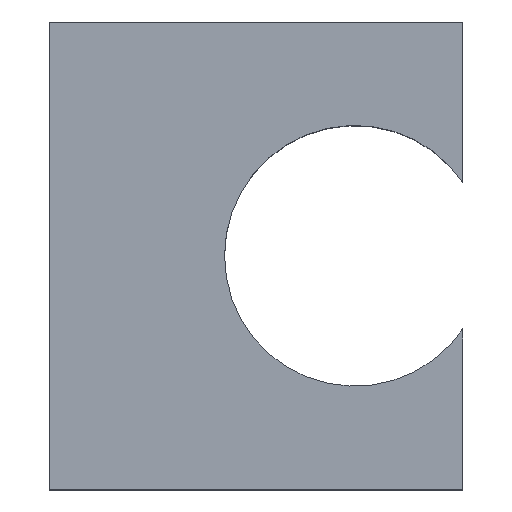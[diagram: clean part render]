
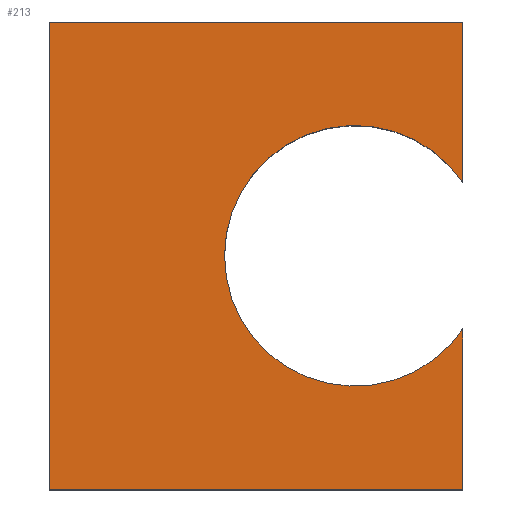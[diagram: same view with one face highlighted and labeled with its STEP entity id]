
A CAD part, top view. The second image highlights one B-rep face of the part: STEP entity #213.
In plain terms, the highlighted planar face has unit normal (0, 0, 1).
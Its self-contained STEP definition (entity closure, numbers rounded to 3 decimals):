
#24 = VERTEX_POINT('',#25);
#25 = CARTESIAN_POINT('',(30.,53.4,-17.2));
#32 = PLANE('',#33);
#33 = AXIS2_PLACEMENT_3D('',#34,#35,#36);
#34 = CARTESIAN_POINT('',(30.,53.4,-20.));
#35 = DIRECTION('',(1.,0.,-0.));
#36 = DIRECTION('',(0.,0.,1.));
#44 = PLANE('',#45);
#45 = AXIS2_PLACEMENT_3D('',#46,#47,#48);
#46 = CARTESIAN_POINT('',(30.,53.4,-20.));
#47 = DIRECTION('',(-0.,1.,0.));
#48 = DIRECTION('',(0.,0.,1.));
#85 = VERTEX_POINT('',#86);
#86 = CARTESIAN_POINT('',(30.,58.6,-17.2));
#100 = PLANE('',#101);
#101 = AXIS2_PLACEMENT_3D('',#102,#103,#104);
#102 = CARTESIAN_POINT('',(30.,58.6,-20.));
#103 = DIRECTION('',(-0.,1.,0.));
#104 = DIRECTION('',(0.,0.,1.));
#112 = EDGE_CURVE('',#24,#85,#113,.T.);
#113 = SURFACE_CURVE('',#114,(#118,#125),.PCURVE_S1.);
#114 = LINE('',#115,#116);
#115 = CARTESIAN_POINT('',(30.,53.4,-17.2));
#116 = VECTOR('',#117,1.);
#117 = DIRECTION('',(-0.,1.,0.));
#118 = PCURVE('',#32,#119);
#119 = DEFINITIONAL_REPRESENTATION('',(#120),#124);
#120 = LINE('',#121,#122);
#121 = CARTESIAN_POINT('',(2.8,0.));
#122 = VECTOR('',#123,1.);
#123 = DIRECTION('',(0.,-1.));
#124 = ( GEOMETRIC_REPRESENTATION_CONTEXT(2) 
PARAMETRIC_REPRESENTATION_CONTEXT() REPRESENTATION_CONTEXT('2D SPACE',''
  ) );
#125 = PCURVE('',#126,#131);
#126 = PLANE('',#127);
#127 = AXIS2_PLACEMENT_3D('',#128,#129,#130);
#128 = CARTESIAN_POINT('',(30.,53.4,-17.2));
#129 = DIRECTION('',(0.,0.,1.));
#130 = DIRECTION('',(1.,0.,-0.));
#131 = DEFINITIONAL_REPRESENTATION('',(#132),#136);
#132 = LINE('',#133,#134);
#133 = CARTESIAN_POINT('',(0.,0.));
#134 = VECTOR('',#135,1.);
#135 = DIRECTION('',(0.,1.));
#136 = ( GEOMETRIC_REPRESENTATION_CONTEXT(2) 
PARAMETRIC_REPRESENTATION_CONTEXT() REPRESENTATION_CONTEXT('2D SPACE',''
  ) );
#165 = EDGE_CURVE('',#24,#166,#168,.T.);
#166 = VERTEX_POINT('',#167);
#167 = CARTESIAN_POINT('',(34.6,53.4,-17.2));
#168 = SURFACE_CURVE('',#169,(#173,#180),.PCURVE_S1.);
#169 = LINE('',#170,#171);
#170 = CARTESIAN_POINT('',(30.,53.4,-17.2));
#171 = VECTOR('',#172,1.);
#172 = DIRECTION('',(1.,0.,-0.));
#173 = PCURVE('',#44,#174);
#174 = DEFINITIONAL_REPRESENTATION('',(#175),#179);
#175 = LINE('',#176,#177);
#176 = CARTESIAN_POINT('',(2.8,0.));
#177 = VECTOR('',#178,1.);
#178 = DIRECTION('',(0.,1.));
#179 = ( GEOMETRIC_REPRESENTATION_CONTEXT(2) 
PARAMETRIC_REPRESENTATION_CONTEXT() REPRESENTATION_CONTEXT('2D SPACE',''
  ) );
#180 = PCURVE('',#126,#181);
#181 = DEFINITIONAL_REPRESENTATION('',(#182),#186);
#182 = LINE('',#183,#184);
#183 = CARTESIAN_POINT('',(0.,0.));
#184 = VECTOR('',#185,1.);
#185 = DIRECTION('',(1.,0.));
#186 = ( GEOMETRIC_REPRESENTATION_CONTEXT(2) 
PARAMETRIC_REPRESENTATION_CONTEXT() REPRESENTATION_CONTEXT('2D SPACE',''
  ) );
#202 = PLANE('',#203);
#203 = AXIS2_PLACEMENT_3D('',#204,#205,#206);
#204 = CARTESIAN_POINT('',(34.6,53.4,-20.));
#205 = DIRECTION('',(1.,0.,-0.));
#206 = DIRECTION('',(0.,0.,1.));
#213 = ADVANCED_FACE('',(#214),#126,.T.);
#214 = FACE_BOUND('',#215,.T.);
#215 = EDGE_LOOP('',(#216,#239,#240,#241,#264,#293));
#216 = ORIENTED_EDGE('',*,*,#217,.F.);
#217 = EDGE_CURVE('',#85,#218,#220,.T.);
#218 = VERTEX_POINT('',#219);
#219 = CARTESIAN_POINT('',(34.6,58.6,-17.2));
#220 = SURFACE_CURVE('',#221,(#225,#232),.PCURVE_S1.);
#221 = LINE('',#222,#223);
#222 = CARTESIAN_POINT('',(30.,58.6,-17.2));
#223 = VECTOR('',#224,1.);
#224 = DIRECTION('',(1.,0.,-0.));
#225 = PCURVE('',#126,#226);
#226 = DEFINITIONAL_REPRESENTATION('',(#227),#231);
#227 = LINE('',#228,#229);
#228 = CARTESIAN_POINT('',(0.,5.2));
#229 = VECTOR('',#230,1.);
#230 = DIRECTION('',(1.,0.));
#231 = ( GEOMETRIC_REPRESENTATION_CONTEXT(2) 
PARAMETRIC_REPRESENTATION_CONTEXT() REPRESENTATION_CONTEXT('2D SPACE',''
  ) );
#232 = PCURVE('',#100,#233);
#233 = DEFINITIONAL_REPRESENTATION('',(#234),#238);
#234 = LINE('',#235,#236);
#235 = CARTESIAN_POINT('',(2.8,0.));
#236 = VECTOR('',#237,1.);
#237 = DIRECTION('',(0.,1.));
#238 = ( GEOMETRIC_REPRESENTATION_CONTEXT(2) 
PARAMETRIC_REPRESENTATION_CONTEXT() REPRESENTATION_CONTEXT('2D SPACE',''
  ) );
#239 = ORIENTED_EDGE('',*,*,#112,.F.);
#240 = ORIENTED_EDGE('',*,*,#165,.T.);
#241 = ORIENTED_EDGE('',*,*,#242,.T.);
#242 = EDGE_CURVE('',#166,#243,#245,.T.);
#243 = VERTEX_POINT('',#244);
#244 = CARTESIAN_POINT('',(34.6,55.186,-17.2));
#245 = SURFACE_CURVE('',#246,(#250,#257),.PCURVE_S1.);
#246 = LINE('',#247,#248);
#247 = CARTESIAN_POINT('',(34.6,53.4,-17.2));
#248 = VECTOR('',#249,1.);
#249 = DIRECTION('',(-0.,1.,0.));
#250 = PCURVE('',#126,#251);
#251 = DEFINITIONAL_REPRESENTATION('',(#252),#256);
#252 = LINE('',#253,#254);
#253 = CARTESIAN_POINT('',(4.6,0.));
#254 = VECTOR('',#255,1.);
#255 = DIRECTION('',(0.,1.));
#256 = ( GEOMETRIC_REPRESENTATION_CONTEXT(2) 
PARAMETRIC_REPRESENTATION_CONTEXT() REPRESENTATION_CONTEXT('2D SPACE',''
  ) );
#257 = PCURVE('',#202,#258);
#258 = DEFINITIONAL_REPRESENTATION('',(#259),#263);
#259 = LINE('',#260,#261);
#260 = CARTESIAN_POINT('',(2.8,0.));
#261 = VECTOR('',#262,1.);
#262 = DIRECTION('',(0.,-1.));
#263 = ( GEOMETRIC_REPRESENTATION_CONTEXT(2) 
PARAMETRIC_REPRESENTATION_CONTEXT() REPRESENTATION_CONTEXT('2D SPACE',''
  ) );
#264 = ORIENTED_EDGE('',*,*,#265,.F.);
#265 = EDGE_CURVE('',#266,#243,#268,.T.);
#266 = VERTEX_POINT('',#267);
#267 = CARTESIAN_POINT('',(34.6,56.814,-17.2));
#268 = SURFACE_CURVE('',#269,(#274,#281),.PCURVE_S1.);
#269 = CIRCLE('',#270,1.45);
#270 = AXIS2_PLACEMENT_3D('',#271,#272,#273);
#271 = CARTESIAN_POINT('',(33.4,56.,-17.2));
#272 = DIRECTION('',(0.,0.,1.));
#273 = DIRECTION('',(1.,0.,-0.));
#274 = PCURVE('',#126,#275);
#275 = DEFINITIONAL_REPRESENTATION('',(#276),#280);
#276 = CIRCLE('',#277,1.45);
#277 = AXIS2_PLACEMENT_2D('',#278,#279);
#278 = CARTESIAN_POINT('',(3.4,2.6));
#279 = DIRECTION('',(1.,0.));
#280 = ( GEOMETRIC_REPRESENTATION_CONTEXT(2) 
PARAMETRIC_REPRESENTATION_CONTEXT() REPRESENTATION_CONTEXT('2D SPACE',''
  ) );
#281 = PCURVE('',#282,#287);
#282 = CYLINDRICAL_SURFACE('',#283,1.45);
#283 = AXIS2_PLACEMENT_3D('',#284,#285,#286);
#284 = CARTESIAN_POINT('',(33.4,56.,-20.1));
#285 = DIRECTION('',(0.,0.,1.));
#286 = DIRECTION('',(1.,0.,-0.));
#287 = DEFINITIONAL_REPRESENTATION('',(#288),#292);
#288 = LINE('',#289,#290);
#289 = CARTESIAN_POINT('',(0.,2.9));
#290 = VECTOR('',#291,1.);
#291 = DIRECTION('',(1.,0.));
#292 = ( GEOMETRIC_REPRESENTATION_CONTEXT(2) 
PARAMETRIC_REPRESENTATION_CONTEXT() REPRESENTATION_CONTEXT('2D SPACE',''
  ) );
#293 = ORIENTED_EDGE('',*,*,#294,.T.);
#294 = EDGE_CURVE('',#266,#218,#295,.T.);
#295 = SURFACE_CURVE('',#296,(#300,#307),.PCURVE_S1.);
#296 = LINE('',#297,#298);
#297 = CARTESIAN_POINT('',(34.6,53.4,-17.2));
#298 = VECTOR('',#299,1.);
#299 = DIRECTION('',(-0.,1.,0.));
#300 = PCURVE('',#126,#301);
#301 = DEFINITIONAL_REPRESENTATION('',(#302),#306);
#302 = LINE('',#303,#304);
#303 = CARTESIAN_POINT('',(4.6,0.));
#304 = VECTOR('',#305,1.);
#305 = DIRECTION('',(0.,1.));
#306 = ( GEOMETRIC_REPRESENTATION_CONTEXT(2) 
PARAMETRIC_REPRESENTATION_CONTEXT() REPRESENTATION_CONTEXT('2D SPACE',''
  ) );
#307 = PCURVE('',#308,#313);
#308 = PLANE('',#309);
#309 = AXIS2_PLACEMENT_3D('',#310,#311,#312);
#310 = CARTESIAN_POINT('',(34.6,53.4,-20.));
#311 = DIRECTION('',(1.,0.,-0.));
#312 = DIRECTION('',(0.,0.,1.));
#313 = DEFINITIONAL_REPRESENTATION('',(#314),#318);
#314 = LINE('',#315,#316);
#315 = CARTESIAN_POINT('',(2.8,0.));
#316 = VECTOR('',#317,1.);
#317 = DIRECTION('',(0.,-1.));
#318 = ( GEOMETRIC_REPRESENTATION_CONTEXT(2) 
PARAMETRIC_REPRESENTATION_CONTEXT() REPRESENTATION_CONTEXT('2D SPACE',''
  ) );
